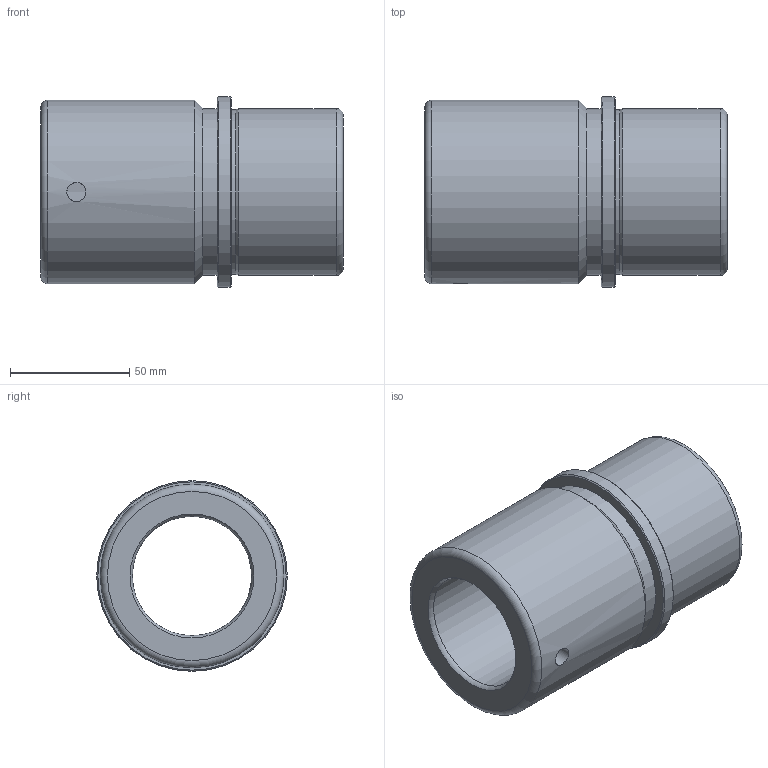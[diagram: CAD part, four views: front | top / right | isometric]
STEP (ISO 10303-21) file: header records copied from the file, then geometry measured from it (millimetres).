
FILE_DESCRIPTION(/* description */ ('Impex Ready, www.impex-ready.pl'),/* implementation_level */ '2;1');
FILE_NAME(/* name */ 'C:\Users\VIKKY\Nextcloud\SM\projekt 10 - części na stronę internetową\Pliki_3D_new\273 Tuleje BEBA\273_BEBA_STEP\BEBA50-1.ipt.step',/* time_stamp */ '2022-01-19T05:44:48+01:00',/* author */ ('SM'),/* organization */ (''),/* preprocessor_version */ 'ST-DEVELOPER v18.1',/* originating_system */ 'Autodesk Inventor 2021',/* authorisation */ '');
FILE_SCHEMA (('AUTOMOTIVE_DESIGN { 1 0 10303 214 3 1 1 }'));
Length unit declared in the file: millimetre
Products named in the file (1): BEBA50-1
Bounding box: 127 x 80 x 80 mm (x, y, z)
Volume: 297878.9 mm3; surface area: 97583.2 mm2
Topology: 2 solids, 2 shells, 22 faces, 54 edges, 32 vertices
Faces by surface type: cylinder 10, torus 4, plane 4, cone 4
Full cylindrical faces by diameter (mm): 8 x2, 50 x1, 52 x2, 69 x1, 70 x2, 77 x1, 80 x1
Entity records: 882 total; most frequent: CARTESIAN_POINT 249, DIRECTION 116, ORIENTED_EDGE 108, EDGE_CURVE 54, AXIS2_PLACEMENT_3D 49, VERTEX_POINT 32, CIRCLE 26, EDGE_LOOP 26
